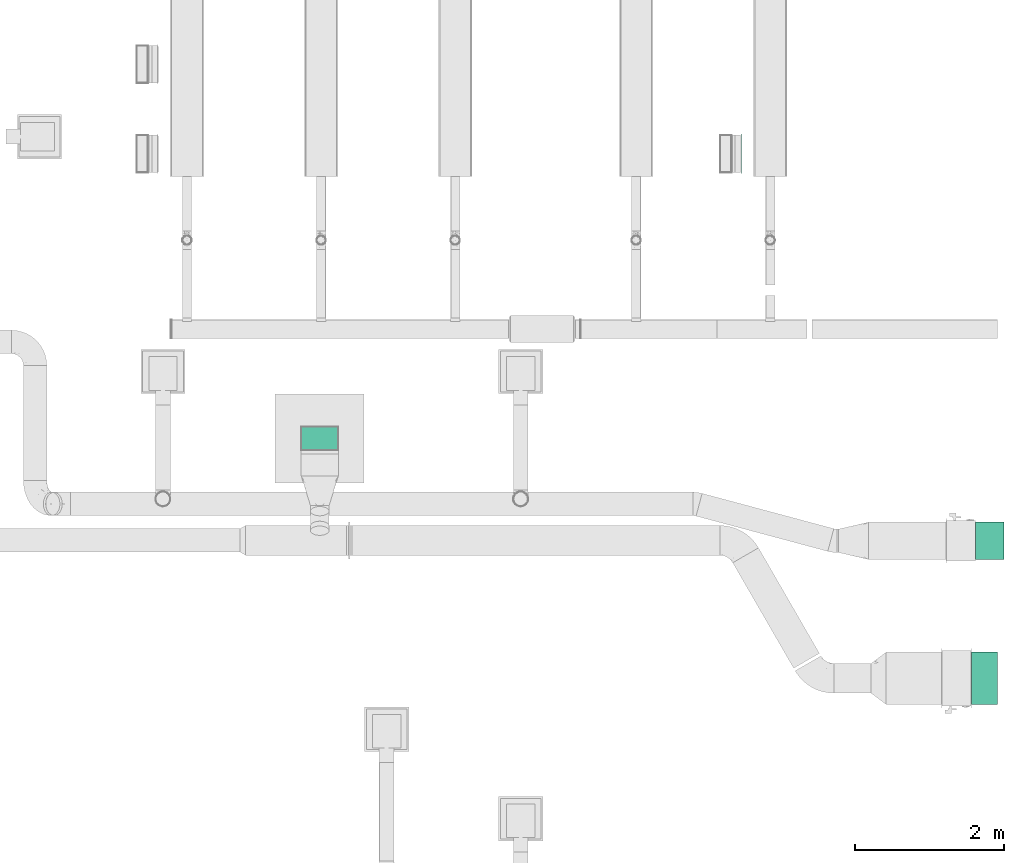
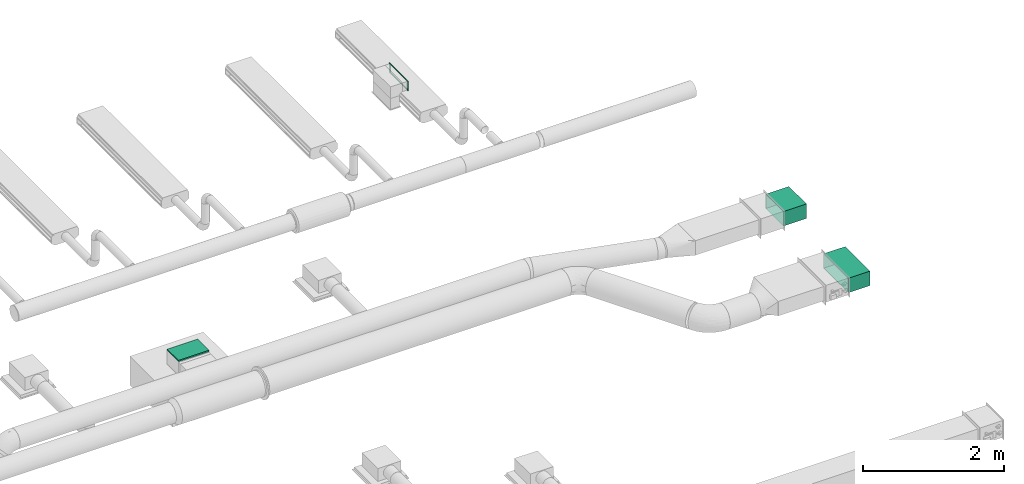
# One storey, part 30 of 36: 2 flow segments, 1 flow fitting, 1 flow terminal.
"""IFC2X3 building model written with IfcOpenShell, lengths in millimetres."""

from ifc_helpers import new_model, entity, si_unit, converted_unit, derived_unit, direction, frame, origin_with_axes, origin_2d_with_axis, place, context, subcontext, project, spatial, hollow_rectangle, extrude, open_shell, faceted_brep, surface_model, source, transform, mapped, type_object, element, save


model = new_model("IFC2X3")

# Units and contexts
model_context = context("Model", 3, precision=0.01, world=frame((0.0, 4.29681676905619e-09, 0.0)), true_north=direction((4.01073788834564e-13, 1.0)))
plan_context = context("Plan", 3, precision=0.01, world=frame((0.0, 4.29681676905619e-09, 0.0)), true_north=direction((4.01073788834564e-13, 1.0)))
body_context = subcontext(model_context, "Body", "Model", "MODEL_VIEW")
ifc_project = project(units=[converted_unit("PLANEANGLEUNIT", "DEGREE", entity("IfcPositiveLengthMeasure", 0.0174532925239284), si_unit("PLANEANGLEUNIT", "RADIAN"), dimensions=[0, 0, 0, 0, 0, 0, 0]), si_unit("AREAUNIT", "SQUARE_METRE"), si_unit("LENGTHUNIT", "METRE", prefix="MILLI"), si_unit("MASSUNIT", "GRAM", prefix="KILO"), si_unit("POWERUNIT", "WATT"), si_unit("PRESSUREUNIT", "PASCAL"), si_unit("FORCEUNIT", "NEWTON", prefix="KILO"), si_unit("ELECTRICCURRENTUNIT", "AMPERE"), si_unit("THERMODYNAMICTEMPERATUREUNIT", "DEGREE_CELSIUS"), si_unit("TIMEUNIT", "SECOND"), si_unit("VOLUMEUNIT", "CUBIC_METRE"), derived_unit("LINEARVELOCITYUNIT", [(si_unit("LENGTHUNIT", "METRE"), 1), (si_unit("TIMEUNIT", "SECOND"), -1)]), derived_unit("VOLUMETRICFLOWRATEUNIT", [(si_unit("VOLUMEUNIT", "CUBIC_METRE"), 1), (si_unit("TIMEUNIT", "SECOND"), -1)]), derived_unit("THERMALTRANSMITTANCEUNIT", [(si_unit("POWERUNIT", "WATT"), 1), (si_unit("THERMODYNAMICTEMPERATUREUNIT", "KELVIN"), -1), (si_unit("AREAUNIT", "SQUARE_METRE"), -1)])], contexts=[model_context, plan_context])

# Site, building, storey
site_placement = place(None, frame((0.0, -4.29681676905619e-09, 0.0), z_axis=(0.0, 0.0, 1.0), x_axis=(1.0, 0.0, 0.0)))
site = spatial("IfcSite", under=ifc_project, at=site_placement, CompositionType="ELEMENT")
building_placement = place(site_placement, frame((0.0, 4.29681676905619e-09, 0.0), z_axis=(0.0, 0.0, 1.0), x_axis=(1.0, 0.0, 0.0)))
building = spatial("IfcBuilding", under=site, at=building_placement, Name="mc-building", CompositionType="ELEMENT")
storey_placement = place(building_placement, frame((0.0, 0.0, 204000.0), z_axis=(0.0, 0.0, 1.0), x_axis=(1.0, 0.0, 0.0)))
storey = spatial("IfcBuildingStorey", under=building, at=storey_placement, Name="Nivå D", CompositionType="ELEMENT", Elevation=204000.0)

# Flow fitting
duct_fitting_type = type_object("IfcDuctFittingType", Name="magirect_plug1_001", PredefinedType="OBSTRUCTION")
shared_shape_1 = source(origin_with_axes(), body_context, "Body", "SurfaceModel", [
    surface_model("IfcShellBasedSurfaceModel", [(0.0, -160.0, 250.0), (0.0, 160.0, -250.0), (0.0, -160.0, -250.0), (0.0, 160.0, 250.0), (25.0, -160.0, -250.0), (25.0, 160.0, -250.0), (25.0, -160.0, 250.0), (25.0, 160.0, 250.0)], [open_shell([[[0, 1, 2]], [[1, 0, 3]], [[4, 5, 6]], [[7, 6, 5]], [[1, 3, 5]], [[7, 5, 3]], [[2, 1, 5]], [[5, 4, 2]], [[0, 2, 6]], [[4, 6, 2]], [[3, 0, 7]], [[6, 7, 0]]])]),
])
flow_fitting_placement = place(storey_placement, frame((523000.04455, 415099.37451, 2740.0), z_axis=(-1.0, 0.0, 0.0), x_axis=(0.0, 0.0, 1.0)))
element("IfcFlowFitting", 1, at=flow_fitting_placement, inside=storey, type_object=duct_fitting_type, Name="magirect_plug1_001", context=body_context, shape_type="MappedRepresentation", body=[
    mapped(shared_shape_1, transform((0.0, 0.0, 0.0), scale=1.0)),
])

# Flow segment
duct_segment_type = type_object("IfcDuctSegmentType", Name="KK002T - Rektangulære, Forsinket stål", PredefinedType="RIGIDSEGMENT")
shared_shape_2 = source(origin_with_axes(), body_context, "Body", "SweptSolid", [
    extrude(hollow_rectangle(XDim=500.0, YDim=250.0, WallThickness=2.0, at=origin_2d_with_axis()), frame((0.0, 0.0, 0.0), z_axis=(1.0, 0.0, 0.0), x_axis=(0.0, 1.0, 0.0)), (0.0, 0.0, 1.0), 379.2),
])
flow_segment_1_placement = place(storey_placement, frame((531800.63626, 413727.0, 2930.0), z_axis=(0.0, 0.0, 1.0), x_axis=(1.0, 0.0, 0.0)))
element("IfcFlowSegment", 2, at=flow_segment_1_placement, inside=storey, type_object=duct_segment_type, Name="KK002T - Rektangulære, Forsinket stål", context=body_context, shape_type="MappedRepresentation", body=[
    mapped(shared_shape_2, transform((0.0, 0.0, 0.0), scale=1.0)),
])

# Flow terminal
air_terminal_type = type_object("IfcAirTerminalType", Name="GRLc 500-150", PredefinedType="NOTDEFINED")
shared_shape_3 = source(origin_with_axes(), body_context, "Body", "SurfaceModel", [
    surface_model("IfcShellBasedSurfaceModel", [(9.90194, -239.99999, 64.98039), (4.90194, -264.99999, 89.98039), (9.90194, 239.99999, 64.98039), (4.90194, 264.99999, 89.98039), (10.09806, 239.99999, 65.01961), (5.09806, 264.99999, 90.01961), (5.09806, -264.99999, 90.01961), (10.09806, -239.99999, 65.01961), (10.09806, -239.99999, -65.01961), (5.09806, -264.99999, -90.01961), (10.09806, 239.99999, -65.01961), (5.09806, 264.99999, -90.01961), (9.90194, 239.99999, -64.98039), (4.90194, 264.99999, -89.98039), (4.90194, -264.99999, -89.98039), (9.90194, -239.99999, -64.98039), (9.90194, -239.98039, -65.0), (4.90194, -264.98039, -90.0), (4.90194, -264.98039, 90.0), (9.90194, -239.98039, 65.0), (10.09806, -240.01962, 65.0), (5.09806, -265.01962, 90.0), (5.09806, -265.01962, -90.0), (10.09806, -240.01962, -65.0), (10.09806, 240.01962, -65.0), (5.09806, 265.01962, -90.0), (5.09806, 265.01962, 90.0), (10.09806, 240.01962, 65.0), (9.90194, 239.98039, 65.0), (4.90194, 264.98039, 90.0), (4.90194, 264.98039, -90.0), (9.90194, 239.98039, -65.0), (-0.1, 264.99999, 75.0), (-0.1, 250.0, 75.0), (-0.1, 250.0, 90.0), (-0.1, 264.99999, 90.0), (0.1, 264.99999, 90.0), (0.1, 250.0, 90.0), (0.1, 250.0, 75.0), (0.1, 264.99999, 75.0), (-0.1, 264.99999, -90.0), (-0.1, 250.0, -90.0), (-0.1, 250.0, -75.0), (-0.1, 264.99999, -75.0), (0.1, 264.99999, -75.0), (0.1, 250.0, -75.0), (0.1, 250.0, -90.0), (0.1, 264.99999, -90.0), (-0.1, -250.0, -90.0), (-0.1, -264.99999, -90.0), (-0.1, -264.99999, -75.0), (-0.1, -250.0, -75.0), (0.1, -250.0, -75.0), (0.1, -264.99999, -75.0), (0.1, -264.99999, -90.0), (0.1, -250.0, -90.0), (-0.1, -250.0, 75.0), (-0.1, -264.99999, 75.0), (-0.1, -264.99999, 90.0), (-0.1, -250.0, 90.0), (0.1, -250.0, 90.0), (0.1, -264.99999, 90.0), (0.1, -264.99999, 75.0), (0.1, -250.0, 75.0), (0.0, -264.99999, 89.9), (0.0, 264.99999, 89.9), (5.0, -264.99999, 89.9), (5.0, 264.99999, 89.9), (5.0, -264.99999, 90.1), (5.0, 264.99999, 90.1), (0.0, 264.99999, 90.1), (0.0, -264.99999, 90.1), (0.0, 264.9, -90.0), (5.0, 264.9, -90.0), (5.0, 264.9, 90.0), (0.0, 264.9, 90.0), (0.0, 265.10001, 90.0), (5.0, 265.10001, 90.0), (0.0, 265.10001, -90.0), (5.0, 265.10001, -90.0), (0.0, -265.10001, -90.0), (5.0, -265.10001, -90.0), (5.0, -265.10001, 90.0), (0.0, -265.10001, 90.0), (0.0, -264.9, 90.0), (5.0, -264.9, 90.0), (0.0, -264.9, -90.0), (5.0, -264.9, -90.0), (0.0, -264.99999, -90.1), (0.0, 264.99999, -90.1), (5.0, -264.99999, -90.1), (5.0, 264.99999, -90.1), (5.0, -264.99999, -89.9), (5.0, 264.99999, -89.9), (0.0, 264.99999, -89.9), (0.0, -264.99999, -89.9), (5.0, -239.99999, -65.1), (5.0, 239.99999, -65.1), (10.0, 239.99999, -65.1), (10.0, -239.99999, -65.1), (10.0, -239.99999, -64.9), (10.0, 239.99999, -64.9), (5.0, 239.99999, -64.9), (5.0, -239.99999, -64.9), (5.0, -239.99999, 64.9), (5.0, 239.99999, 64.9), (10.0, 239.99999, 64.9), (10.0, -239.99999, 64.9), (10.0, -239.99999, 65.1), (10.0, 239.99999, 65.1), (5.0, 239.99999, 65.1), (5.0, -239.99999, 65.1), (5.0, 239.9, -65.0), (10.0, 239.9, -65.0), (10.0, 239.9, 65.0), (5.0, 239.9, 65.0), (5.0, 240.10001, 65.0), (10.0, 240.10001, 65.0), (5.0, 240.10001, -65.0), (10.0, 240.10001, -65.0), (5.0, -240.10001, -65.0), (10.0, -240.10001, -65.0), (10.0, -240.10001, 65.0), (5.0, -240.10001, 65.0), (5.0, -239.9, 65.0), (10.0, -239.9, 65.0), (5.0, -239.9, -65.0), (10.0, -239.9, -65.0)], [open_shell([[[0, 1, 2]], [[3, 2, 1]], [[4, 5, 6]], [[6, 7, 4]], [[3, 1, 6]], [[6, 5, 3]], [[2, 3, 5]], [[5, 4, 2]], [[0, 2, 4]], [[4, 7, 0]], [[1, 0, 7]], [[7, 6, 1]], [[8, 9, 10]], [[11, 10, 9]], [[12, 13, 14]], [[14, 15, 12]], [[11, 9, 14]], [[14, 13, 11]], [[10, 11, 13]], [[13, 12, 10]], [[8, 10, 12]], [[12, 15, 8]], [[9, 8, 15]], [[15, 14, 9]], [[16, 17, 18]], [[18, 19, 16]], [[20, 21, 22]], [[22, 23, 20]], [[18, 17, 22]], [[22, 21, 18]], [[19, 18, 21]], [[21, 20, 19]], [[16, 19, 23]], [[20, 23, 19]], [[17, 16, 22]], [[23, 22, 16]], [[24, 25, 26]], [[26, 27, 24]], [[28, 29, 30]], [[30, 31, 28]], [[26, 25, 30]], [[30, 29, 26]], [[27, 26, 29]], [[29, 28, 27]], [[24, 27, 31]], [[28, 31, 27]], [[25, 24, 31]], [[31, 30, 25]], [[32, 33, 34]], [[34, 35, 32]], [[36, 37, 38]], [[38, 39, 36]], [[34, 33, 38]], [[38, 37, 34]], [[35, 34, 37]], [[37, 36, 35]], [[32, 35, 36]], [[36, 39, 32]], [[33, 32, 39]], [[39, 38, 33]], [[40, 41, 42]], [[42, 43, 40]], [[44, 45, 46]], [[46, 47, 44]], [[42, 41, 46]], [[46, 45, 42]], [[43, 42, 45]], [[45, 44, 43]], [[40, 43, 44]], [[44, 47, 40]], [[41, 40, 47]], [[47, 46, 41]], [[48, 49, 50]], [[50, 51, 48]], [[52, 53, 54]], [[54, 55, 52]], [[50, 49, 54]], [[54, 53, 50]], [[51, 50, 53]], [[53, 52, 51]], [[48, 51, 52]], [[52, 55, 48]], [[49, 48, 55]], [[55, 54, 49]], [[56, 57, 58]], [[58, 59, 56]], [[60, 61, 62]], [[62, 63, 60]], [[58, 57, 62]], [[62, 61, 58]], [[59, 58, 61]], [[61, 60, 59]], [[56, 59, 60]], [[60, 63, 56]], [[57, 56, 63]], [[63, 62, 57]], [[64, 65, 66]], [[67, 66, 65]], [[68, 69, 70]], [[70, 71, 68]], [[67, 65, 70]], [[70, 69, 67]], [[66, 67, 69]], [[69, 68, 66]], [[64, 66, 68]], [[68, 71, 64]], [[65, 64, 71]], [[71, 70, 65]], [[72, 73, 74]], [[74, 75, 72]], [[76, 77, 78]], [[79, 78, 77]], [[74, 73, 79]], [[79, 77, 74]], [[75, 74, 77]], [[77, 76, 75]], [[72, 75, 76]], [[76, 78, 72]], [[73, 72, 78]], [[78, 79, 73]], [[80, 81, 82]], [[82, 83, 80]], [[84, 85, 86]], [[87, 86, 85]], [[82, 81, 87]], [[87, 85, 82]], [[83, 82, 85]], [[85, 84, 83]], [[80, 83, 84]], [[84, 86, 80]], [[81, 80, 86]], [[86, 87, 81]], [[88, 89, 90]], [[91, 90, 89]], [[92, 93, 94]], [[94, 95, 92]], [[91, 89, 94]], [[94, 93, 91]], [[90, 91, 93]], [[93, 92, 90]], [[88, 90, 92]], [[92, 95, 88]], [[89, 88, 95]], [[95, 94, 89]], [[96, 97, 98]], [[98, 99, 96]], [[100, 101, 102]], [[102, 103, 100]], [[98, 97, 101]], [[102, 101, 97]], [[99, 98, 101]], [[101, 100, 99]], [[96, 99, 100]], [[100, 103, 96]], [[97, 96, 103]], [[103, 102, 97]], [[104, 105, 106]], [[106, 107, 104]], [[108, 109, 110]], [[110, 111, 108]], [[106, 105, 109]], [[110, 109, 105]], [[107, 106, 109]], [[109, 108, 107]], [[104, 107, 108]], [[108, 111, 104]], [[105, 104, 111]], [[111, 110, 105]], [[112, 113, 114]], [[114, 115, 112]], [[116, 117, 118]], [[119, 118, 117]], [[114, 113, 119]], [[119, 117, 114]], [[115, 114, 117]], [[117, 116, 115]], [[112, 115, 118]], [[116, 118, 115]], [[113, 112, 118]], [[118, 119, 113]], [[120, 121, 122]], [[122, 123, 120]], [[124, 125, 126]], [[127, 126, 125]], [[122, 121, 127]], [[127, 125, 122]], [[123, 122, 125]], [[125, 124, 123]], [[120, 123, 126]], [[124, 126, 123]], [[121, 120, 126]], [[126, 127, 121]], [[33, 56, 34]], [[59, 34, 56]], [[37, 60, 63]], [[63, 38, 37]], [[59, 56, 63]], [[63, 60, 59]], [[34, 59, 60]], [[60, 37, 34]], [[33, 34, 37]], [[37, 38, 33]], [[56, 33, 38]], [[38, 63, 56]], [[51, 50, 57]], [[57, 56, 51]], [[63, 62, 53]], [[53, 52, 63]], [[57, 50, 53]], [[53, 62, 57]], [[56, 57, 62]], [[62, 63, 56]], [[51, 56, 63]], [[63, 52, 51]], [[50, 51, 52]], [[52, 53, 50]], [[41, 48, 42]], [[51, 42, 48]], [[45, 52, 55]], [[55, 46, 45]], [[51, 48, 55]], [[55, 52, 51]], [[42, 51, 52]], [[52, 45, 42]], [[41, 42, 45]], [[45, 46, 41]], [[48, 41, 46]], [[46, 55, 48]], [[43, 42, 33]], [[33, 32, 43]], [[39, 38, 45]], [[45, 44, 39]], [[33, 42, 45]], [[45, 38, 33]], [[32, 33, 38]], [[38, 39, 32]], [[43, 32, 39]], [[39, 44, 43]], [[42, 43, 44]], [[44, 45, 42]]])]),
])
flow_terminal_placement = place(storey_placement, frame((528649.26443, 418919.06689, 3190.0), z_axis=(0.0, 0.0, 1.0), x_axis=(1.0, 0.0, 0.0)))
element("IfcFlowTerminal", 3, at=flow_terminal_placement, inside=storey, type_object=air_terminal_type, Name="GRLc 500-150", context=body_context, shape_type="MappedRepresentation", body=[
    mapped(shared_shape_3, transform((0.0, 0.0, 0.0), scale=1.0)),
])

# Flow segment
flow_segment_2_placement = place(storey_placement, frame((533830.5, 411882.76875, 2977.5), z_axis=(0.0, 0.0, 1.0), x_axis=(-1.0, 0.0, 0.0)))
element("IfcFlowSegment", 4, at=flow_segment_2_placement, inside=storey, type_object=duct_segment_type, Name="KK002T - Rektangulære, Forsinket stål", context=body_context, shape_type="Brep", body=[
    faceted_brep([(1735.49999999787, -348.0, -123.0), (1735.49999999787, 348.0, -123.0), (2089.9, 348.0, -123.0), (2089.9, -348.0, -123.0), (1735.49999999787, -348.0, 123.0), (2089.9, -348.0, 123.0), (1735.49999999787, 348.0, 123.0), (2089.9, 348.0, 123.0), (1735.49999999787, 350.0, -125.0), (1735.49999999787, -350.0, -125.0), (2089.9, -350.0, -125.0), (2089.9, 350.0, -125.0), (1735.49999999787, 350.0, 125.0), (2089.9, 350.0, 125.0), (1735.49999999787, -350.0, 125.0), (2089.9, -350.0, 125.0)], [[[0, 1, 2, 3]], [[4, 0, 3, 5]], [[6, 4, 5, 7]], [[1, 6, 7, 2]], [[8, 9, 10, 11]], [[12, 8, 11, 13]], [[14, 12, 13, 15]], [[9, 14, 15, 10]], [[11, 10, 15, 13], [2, 7, 5, 3]], [[12, 14, 9, 8], [4, 6, 1, 0]]], orient=[[False], [False], [False], [False], [False], [False], [False], [False], [False, False], [False, False]]),
])

save(model, "model.ifc")
